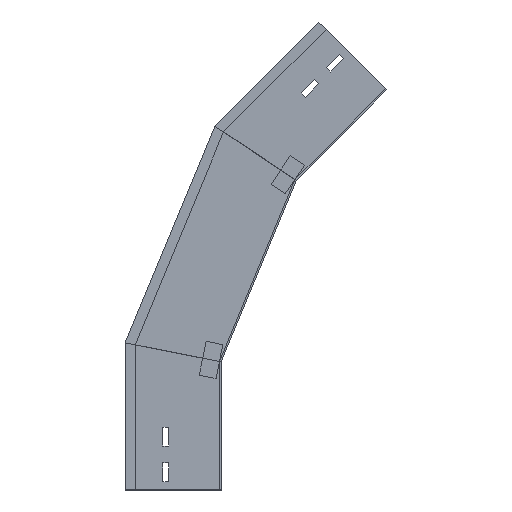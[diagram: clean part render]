
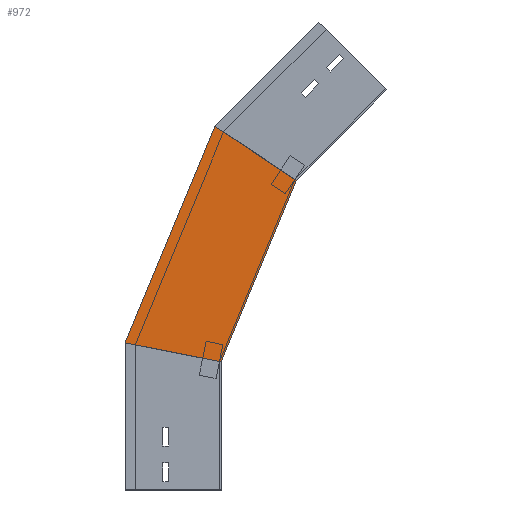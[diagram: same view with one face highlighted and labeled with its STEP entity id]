
A CAD part, left-side view. The second image highlights one B-rep face of the part: STEP entity #972.
In plain terms, the highlighted planar face has unit normal (-1, 0, 0) as drawn and (1, 0, 0) by its records, which use the part's own axes.
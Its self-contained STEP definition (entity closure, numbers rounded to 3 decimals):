
#18 = VECTOR ( 'NONE', #1313, 1000. ) ;
#79 = DIRECTION ( 'NONE',  ( 0., -0.981, -0.195 ) ) ;
#95 = DIRECTION ( 'NONE',  ( 0., 0., -1. ) ) ;
#102 = CARTESIAN_POINT ( 'NONE',  ( 0., 9.458, 127.166 ) ) ;
#109 = ORIENTED_EDGE ( 'NONE', *, *, #1023, .T. ) ;
#114 = PLANE ( 'NONE',  #1236 ) ;
#152 = LINE ( 'NONE', #597, #1439 ) ;
#221 = VERTEX_POINT ( 'NONE', #1273 ) ;
#245 = EDGE_CURVE ( 'NONE', #221, #453, #152, .T. ) ;
#266 = CARTESIAN_POINT ( 'NONE',  ( 0., 113.395, 170.218 ) ) ;
#386 = CARTESIAN_POINT ( 'NONE',  ( 0., 112.5, 172.378 ) ) ;
#453 = VERTEX_POINT ( 'NONE', #505 ) ;
#478 = LINE ( 'NONE', #102, #1262 ) ;
#484 = EDGE_LOOP ( 'NONE', ( #109, #1494, #1058, #616 ) ) ;
#505 = CARTESIAN_POINT ( 'NONE',  ( 0., -88.017, 362.492 ) ) ;
#580 = EDGE_CURVE ( 'NONE', #1417, #732, #761, .T. ) ;
#597 = CARTESIAN_POINT ( 'NONE',  ( 0., -129.335, 334.885 ) ) ;
#616 = ORIENTED_EDGE ( 'NONE', *, *, #580, .F. ) ;
#653 = CARTESIAN_POINT ( 'NONE',  ( 0., -28.701, 144.291 ) ) ;
#732 = VERTEX_POINT ( 'NONE', #844 ) ;
#761 = LINE ( 'NONE', #653, #1277 ) ;
#821 = LINE ( 'NONE', #266, #18 ) ;
#844 = CARTESIAN_POINT ( 'NONE',  ( 0., 0., 150. ) ) ;
#855 = EDGE_CURVE ( 'NONE', #732, #453, #478, .T. ) ;
#972 = ADVANCED_FACE ( 'NONE', ( #1143 ), #114, .T. ) ;
#1023 = EDGE_CURVE ( 'NONE', #1417, #221, #821, .T. ) ;
#1058 = ORIENTED_EDGE ( 'NONE', *, *, #855, .F. ) ;
#1131 = CARTESIAN_POINT ( 'NONE',  ( 0., 9.458, 127.166 ) ) ;
#1143 = FACE_OUTER_BOUND ( 'NONE', #484, .T. ) ;
#1236 = AXIS2_PLACEMENT_3D ( 'NONE', #1131, #1499, #95 ) ;
#1257 = DIRECTION ( 'NONE',  ( 0., -0.383, 0.924 ) ) ;
#1262 = VECTOR ( 'NONE', #1257, 1000. ) ;
#1273 = CARTESIAN_POINT ( 'NONE',  ( 0., 7.356, 426.218 ) ) ;
#1277 = VECTOR ( 'NONE', #79, 1000. ) ;
#1302 = DIRECTION ( 'NONE',  ( 0., -0.831, -0.556 ) ) ;
#1313 = DIRECTION ( 'NONE',  ( 0., -0.383, 0.924 ) ) ;
#1417 = VERTEX_POINT ( 'NONE', #386 ) ;
#1439 = VECTOR ( 'NONE', #1302, 1000. ) ;
#1494 = ORIENTED_EDGE ( 'NONE', *, *, #245, .T. ) ;
#1499 = DIRECTION ( 'NONE',  ( 1., 0., 0. ) ) ;
